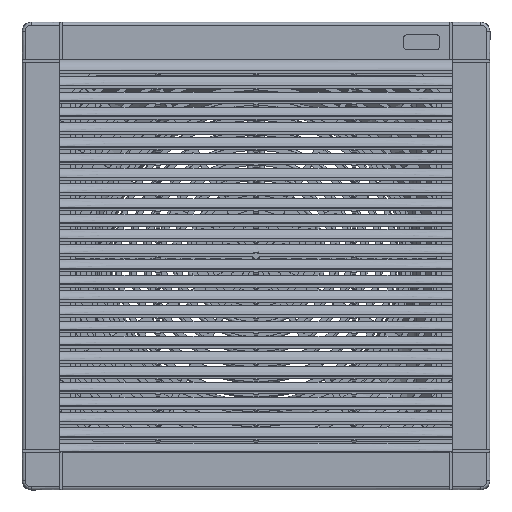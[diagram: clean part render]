
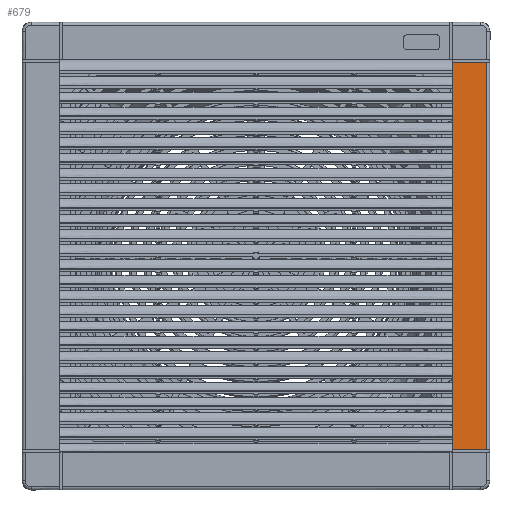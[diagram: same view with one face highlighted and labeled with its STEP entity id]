
A CAD part, front view. The second image highlights one B-rep face of the part: STEP entity #679.
In plain terms, the highlighted planar face has unit normal (0, -1, 0).
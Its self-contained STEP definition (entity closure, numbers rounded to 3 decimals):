
#679=ADVANCED_FACE($,(#5350),#63601,.T.);
#5350=FACE_OUTER_BOUND($,#10028,.T.);
#10028=EDGE_LOOP($,(#16235,#16236,#16237,#16238));
#16235=ORIENTED_EDGE($,*,*,#42580,.F.);
#16236=ORIENTED_EDGE($,*,*,#42618,.T.);
#16237=ORIENTED_EDGE($,*,*,#42592,.F.);
#16238=ORIENTED_EDGE($,*,*,#42619,.T.);
#42580=EDGE_CURVE($,#55797,#55794,#68653,.T.);
#42592=EDGE_CURVE($,#55807,#55808,#68662,.T.);
#42618=EDGE_CURVE($,#55797,#55808,#68682,.T.);
#42619=EDGE_CURVE($,#55807,#55794,#68683,.T.);
#55794=VERTEX_POINT($,#99428);
#55797=VERTEX_POINT($,#99431);
#55807=VERTEX_POINT($,#99441);
#55808=VERTEX_POINT($,#99442);
#63601=PLANE($,#81465);
#68653=B_SPLINE_CURVE_WITH_KNOTS($,1,(#87530,#87531),.UNSPECIFIED.,.F.,.F.,
(2,2),(-23.89,0.),.UNSPECIFIED.);
#68662=B_SPLINE_CURVE_WITH_KNOTS($,1,(#87557,#87558),.UNSPECIFIED.,.F.,.F.,
(2,2),(-23.89,0.),.UNSPECIFIED.);
#68682=B_SPLINE_CURVE_WITH_KNOTS($,1,(#87615,#87616),.UNSPECIFIED.,.F.,.F.,
(2,2),(0.,268.952),.UNSPECIFIED.);
#68683=B_SPLINE_CURVE_WITH_KNOTS($,1,(#87617,#87618),.UNSPECIFIED.,.F.,.F.,
(2,2),(-268.952,0.),.UNSPECIFIED.);
#81465=AXIS2_PLACEMENT_3D($,#94648,#83187,$);
#83187=DIRECTION($,(0.,-1.,0.));
#87530=CARTESIAN_POINT($,(296.976,-12.,276.476));
#87531=CARTESIAN_POINT($,(320.866,-12.,276.476));
#87557=CARTESIAN_POINT($,(320.866,-12.,7.524));
#87558=CARTESIAN_POINT($,(296.976,-12.,7.524));
#87615=CARTESIAN_POINT($,(296.976,-12.,276.476));
#87616=CARTESIAN_POINT($,(296.976,-12.,7.524));
#87617=CARTESIAN_POINT($,(320.866,-12.,7.524));
#87618=CARTESIAN_POINT($,(320.866,-12.,276.476));
#94648=CARTESIAN_POINT($,(296.976,-12.,276.476));
#99428=CARTESIAN_POINT($,(320.866,-12.,276.476));
#99431=CARTESIAN_POINT($,(296.976,-12.,276.476));
#99441=CARTESIAN_POINT($,(320.866,-12.,7.524));
#99442=CARTESIAN_POINT($,(296.976,-12.,7.524));
